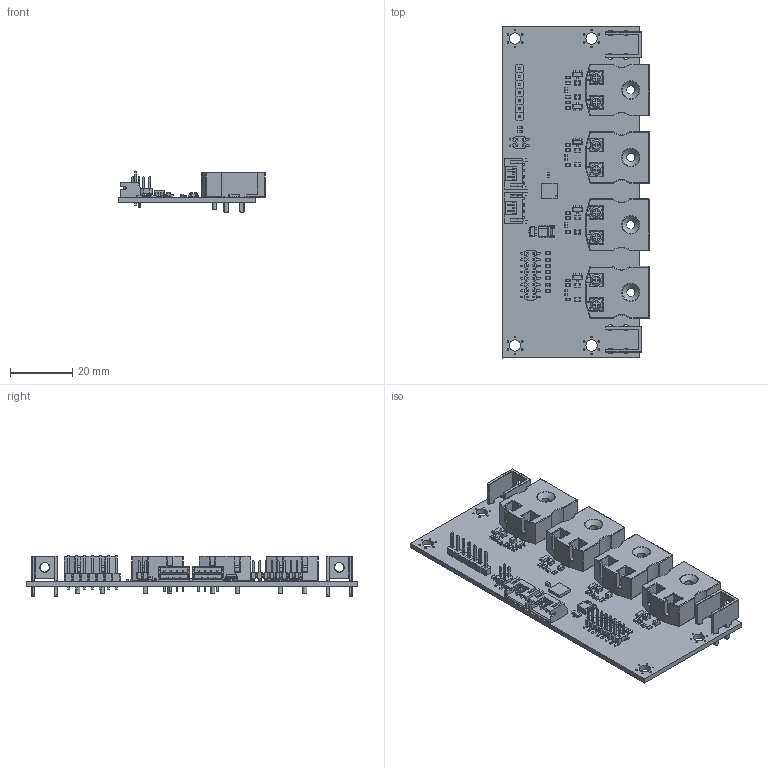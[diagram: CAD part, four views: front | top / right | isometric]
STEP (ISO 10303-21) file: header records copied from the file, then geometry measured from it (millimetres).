
FILE_DESCRIPTION(('FreeCAD Model'),'2;1');
FILE_NAME('Open CASCADE Shape Model','2026-04-29T13:59:00',(''),(''), 'Open CASCADE STEP processor 7.8','FreeCAD','Unknown');
FILE_SCHEMA(('AP242_MANAGED_MODEL_BASED_3D_ENGINEERING_MIM_LF. {1 0 10303 442 1 1 4 }'));
Length unit declared in the file: millimetre
Products named in the file (170): PCB; Board; J2; CH71042M100-0P; 12P_4; SMT_PIN-PC; SMT_PIN-PC001; SMT_PIN-PC002; SMT_PIN-PC003; U1; QFN_MCP9604-E3YW_MCH027; QFN_MCP9604-E3YW_MCH; QFN_MCP9604-E3YW_MCH001; QFN_MCP9604-E3YW_MCH002; QFN_MCP9604-E3YW_MCH003; QFN_MCP9604-E3YW_MCH004; QFN_MCP9604-E3YW_MCH005; QFN_MCP9604-E3YW_MCH006; QFN_MCP9604-E3YW_MCH007; QFN_MCP9604-E3YW_MCH008; QFN_MCP9604-E3YW_MCH009; QFN_MCP9604-E3YW_MCH010; QFN_MCP9604-E3YW_MCH011; QFN_MCP9604-E3YW_MCH012; QFN_MCP9604-E3YW_MCH013; QFN_MCP9604-E3YW_MCH014; QFN_MCP9604-E3YW_MCH015; QFN_MCP9604-E3YW_MCH016; QFN_MCP9604-E3YW_MCH017; QFN_MCP9604-E3YW_MCH018; QFN_MCP9604-E3YW_MCH019; QFN_MCP9604-E3YW_MCH020; QFN_MCP9604-E3YW_MCH021; QFN_MCP9604-E3YW_MCH022; QFN_MCP9604-E3YW_MCH023; QFN_MCP9604-E3YW_MCH024; QFN_MCP9604-E3YW_MCH025; QFN_MCP9604-E3YW_MCH026; R23; MCR03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
Assembly tree (169 placements, depth 4):
  PCB
    Board
    J2
      CH71042M100-0P
        12P_4
        SMT_PIN-PC
        SMT_PIN-PC001
        SMT_PIN-PC002
        SMT_PIN-PC003
    U1
      QFN_MCP9604-E3YW_MCH027
        QFN_MCP9604-E3YW_MCH
        QFN_MCP9604-E3YW_MCH001
        QFN_MCP9604-E3YW_MCH002
        QFN_MCP9604-E3YW_MCH003
        QFN_MCP9604-E3YW_MCH004
        QFN_MCP9604-E3YW_MCH005
        QFN_MCP9604-E3YW_MCH006
        QFN_MCP9604-E3YW_MCH007
        QFN_MCP9604-E3YW_MCH008
        QFN_MCP9604-E3YW_MCH009
        QFN_MCP9604-E3YW_MCH010
        QFN_MCP9604-E3YW_MCH011
        QFN_MCP9604-E3YW_MCH012
        QFN_MCP9604-E3YW_MCH013
        QFN_MCP9604-E3YW_MCH014
        QFN_MCP9604-E3YW_MCH015
        QFN_MCP9604-E3YW_MCH016
        QFN_MCP9604-E3YW_MCH017
        QFN_MCP9604-E3YW_MCH018
        QFN_MCP9604-E3YW_MCH019
        QFN_MCP9604-E3YW_MCH020
        QFN_MCP9604-E3YW_MCH021
        QFN_MCP9604-E3YW_MCH022
        QFN_MCP9604-E3YW_MCH023
        QFN_MCP9604-E3YW_MCH024
        QFN_MCP9604-E3YW_MCH025
        QFN_MCP9604-E3YW_MCH026
    R23
      MCR03
    R22
      MCR004
    R21
      MCR005
    R20
      MCR006
    R19
      MCR007
    R18
      MCR008
    R17
      MCR009
    R16
      MCR010
    R15
      MCR011
    R14
      MCR012
    R13
      MCR013
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Bounding box: 47.05 x 106.3 x 13.36 mm (x, y, z)
Volume: 17794 mm3; surface area: 20397.6 mm2
Topology: 109 solids, 109 shells, 5283 faces, 12684 edges, 7384 vertices
Faces by surface type: plane 3179, cylinder 1384, torus 384, sphere 292, bspline 36, cone 8
Full cylindrical faces by diameter (mm): 0.25 x1, 0.5 x24, 0.8 x8, 1.02 x7, 1.3 x8, 1.5 x8, 1.85 x8, 2.7 x4, 3 x6, 3.5 x8, 3.6 x4
Entity records: 373898 total; most frequent: CARTESIAN_POINT 78544, DIRECTION 49367, LINE 31878, VECTOR 31878, ORIENTED_EDGE 24784, PCURVE 24784, DEFINITIONAL_REPRESENTATION 24784, EDGE_CURVE 12392
